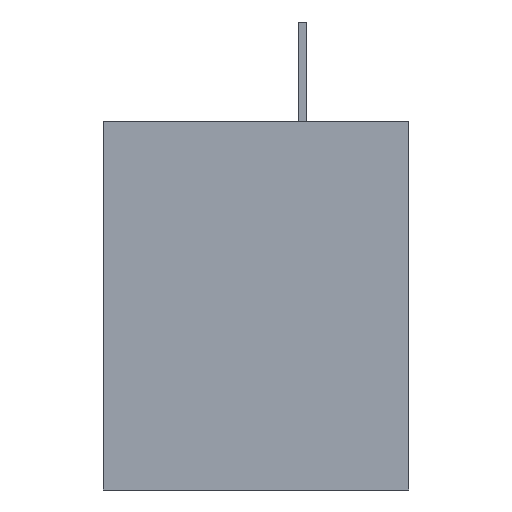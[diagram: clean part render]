
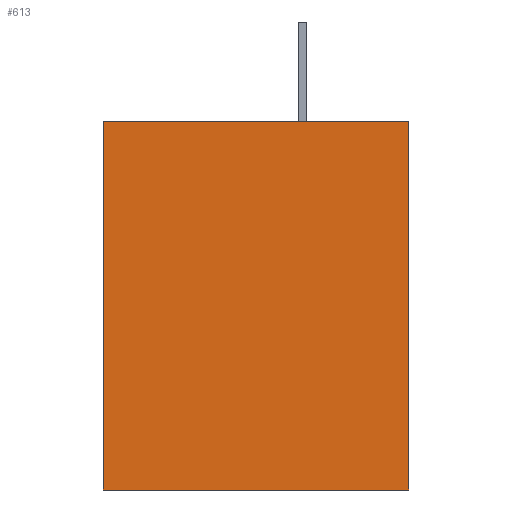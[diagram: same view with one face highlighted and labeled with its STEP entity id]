
A CAD part, left-side view. The second image highlights one B-rep face of the part: STEP entity #613.
In plain terms, the highlighted planar face has unit normal (-1, 0, 0).
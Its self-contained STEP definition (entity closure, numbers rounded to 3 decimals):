
#48=ORIENTED_EDGE('',*,*,#216,.T.);
#49=ORIENTED_EDGE('',*,*,#215,.F.);
#50=ORIENTED_EDGE('',*,*,#217,.F.);
#51=ORIENTED_EDGE('',*,*,#218,.T.);
#215=EDGE_CURVE('',#299,#296,#355,.T.);
#216=EDGE_CURVE('',#300,#296,#356,.T.);
#217=EDGE_CURVE('',#301,#299,#357,.T.);
#218=EDGE_CURVE('',#301,#300,#358,.T.);
#296=VERTEX_POINT('',#902);
#299=VERTEX_POINT('',#907);
#300=VERTEX_POINT('',#911);
#301=VERTEX_POINT('',#913);
#355=LINE('',#908,#439);
#356=LINE('',#910,#440);
#357=LINE('',#912,#441);
#358=LINE('',#914,#442);
#439=VECTOR('',#727,1000.);
#440=VECTOR('',#730,1000.);
#441=VECTOR('',#731,1000.);
#442=VECTOR('',#732,1000.);
#503=EDGE_LOOP('',(#48,#49,#50,#51));
#543=FACE_BOUND('',#503,.T.);
#578=PLANE('',#661);
#613=ADVANCED_FACE('',(#543),#578,.F.);
#661=AXIS2_PLACEMENT_3D('',#909,#728,#729);
#727=DIRECTION('',(0.,-1.,0.));
#728=DIRECTION('',(1.,0.,0.));
#729=DIRECTION('',(0.,0.,-1.));
#730=DIRECTION('',(0.,0.,1.));
#731=DIRECTION('',(0.,0.,1.));
#732=DIRECTION('',(0.,-1.,0.));
#902=CARTESIAN_POINT('',(-10.925,0.,6.91));
#907=CARTESIAN_POINT('',(-10.925,9.2,6.91));
#908=CARTESIAN_POINT('',(-10.925,9.2,6.91));
#909=CARTESIAN_POINT('',(-10.925,9.2,-4.19));
#910=CARTESIAN_POINT('',(-10.925,0.,-4.19));
#911=CARTESIAN_POINT('',(-10.925,0.,-4.19));
#912=CARTESIAN_POINT('',(-10.925,9.2,-4.19));
#913=CARTESIAN_POINT('',(-10.925,9.2,-4.19));
#914=CARTESIAN_POINT('',(-10.925,9.2,-4.19));
